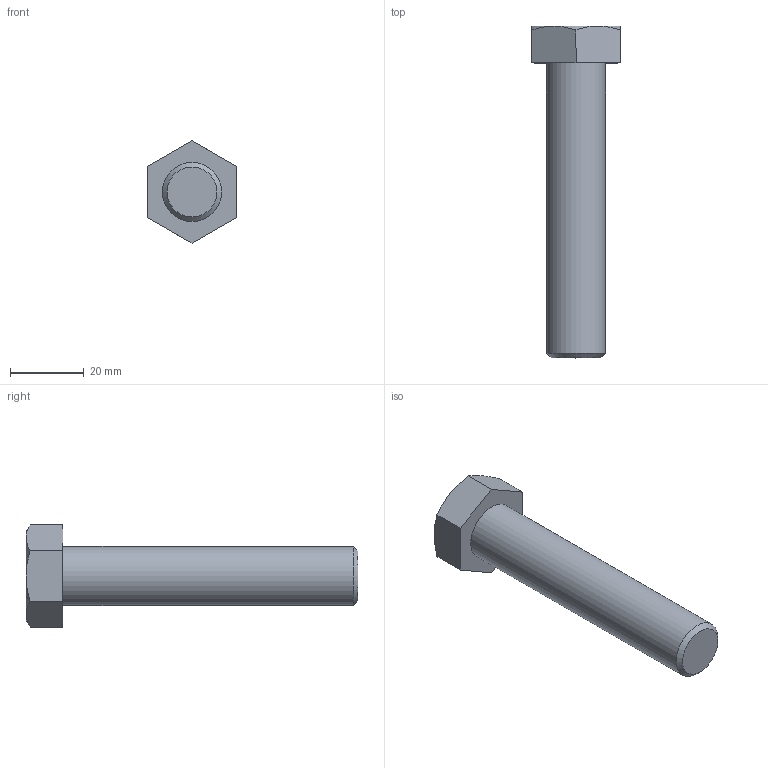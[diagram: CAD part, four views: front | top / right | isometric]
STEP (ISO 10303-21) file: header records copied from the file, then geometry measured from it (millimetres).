
FILE_DESCRIPTION(/* description */ (''),/* implementation_level */ '2;1');
FILE_NAME(/* name */ 'C:\Users\unitec\Documents\Inventor\各種小物\JIS\JIS B 1180 六角ボルト 等級C\hbc16\M16x80.stp',/* time_stamp */ '2015-02-13T14:52:17+09:00',/* author */ ('unitec'),/* organization */ (''),/* preprocessor_version */ 'ST-DEVELOPER v15.2',/* originating_system */ 'Autodesk Inventor 2014',/* authorisation */ '');
FILE_SCHEMA (('AUTOMOTIVE_DESIGN { 1 0 10303 214 3 1 1 }'));
Length unit declared in the file: millimetre
Products named in the file (1): M16x80
Bounding box: 24 x 90 x 27.71 mm (x, y, z)
Volume: 21022.2 mm3; surface area: 5788.7 mm2
Topology: 1 solids, 1 shells, 17 faces, 35 edges, 21 vertices
Faces by surface type: plane 9, cone 7, cylinder 1
Full cylindrical faces by diameter (mm): 16 x1
Entity records: 441 total; most frequent: CARTESIAN_POINT 96, ORIENTED_EDGE 66, DIRECTION 66, EDGE_CURVE 33, AXIS2_PLACEMENT_3D 27, VERTEX_POINT 21, EDGE_LOOP 20, ADVANCED_FACE 17
